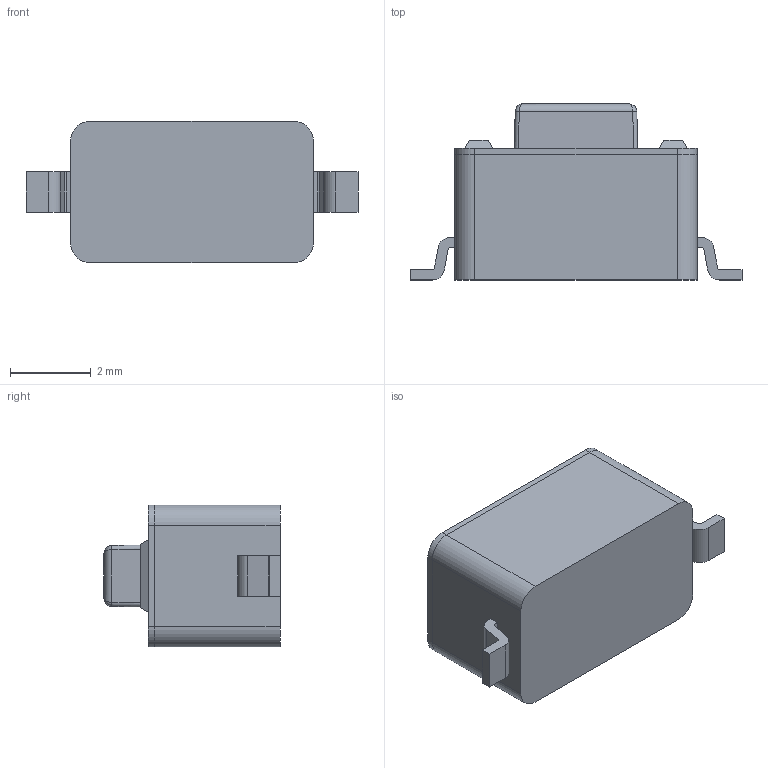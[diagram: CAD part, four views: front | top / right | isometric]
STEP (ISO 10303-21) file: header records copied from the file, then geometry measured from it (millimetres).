
FILE_DESCRIPTION((''),'2;1');
FILE_NAME('JQA3560Z-B0503-G-1-101_ASM','2026-09-29T17:06:54',('Admin'),(''),'CREO PARAMETRIC BY PTC INC, 2019224','CREO PARAMETRIC BY PTC INC, 2019224','');
FILE_SCHEMA(('AUTOMOTIVE_DESIGN { 1 0 10303 214 1 1 1 1 }'));
Length unit declared in the file: millimetre
Products named in the file (3): JQA3560Z-B0503-G-1-101_01; JQA3560Z-B0503-G-1-101_02; JQA3560Z-B0503-G-1-101_ASM
Assembly tree (2 placements, depth 2):
  JQA3560Z-B0503-G-1-101_ASM
    JQA3560Z-B0503-G-1-101_01
    JQA3560Z-B0503-G-1-101_02
Bounding box: 8.2 x 4.35 x 3.5 mm (x, y, z)
Volume: 73.7 mm3; surface area: 156 mm2
Topology: 2 solids, 2 shells, 95 faces, 240 edges, 156 vertices
Faces by surface type: plane 67, cylinder 24, bspline 4
Entity records: 4201 total; most frequent: CARTESIAN_POINT 749, ORIENTED_EDGE 480, DIRECTION 460, EDGE_CURVE 240, PRESENTATION_STYLE_ASSIGNMENT 227, STYLED_ITEM 201, VECTOR 192, LINE 192
